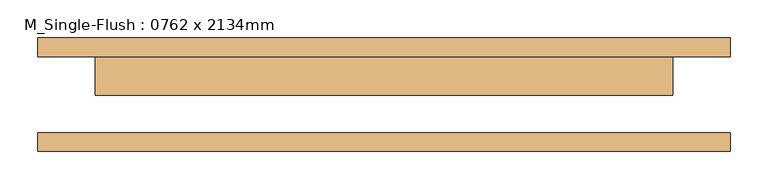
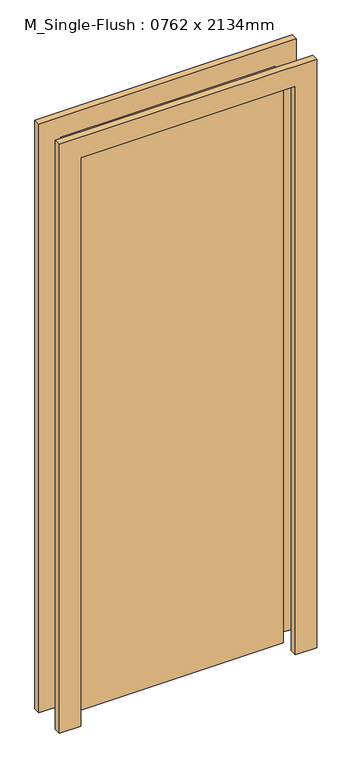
"""IFC4 building model written with IfcOpenShell, lengths in millimetres: door geometry, M_Single-Flush : 0762 x 2134mm."""

from ifc_helpers import new_model, si_unit, frame, origin, origin_with_axes, place, context, project, spatial, polyline, outline, extrude, source, transform, mapped, element, save


def m_single_flush_0762_x_2134mm_7790ef76(model_context):
    return source(origin(), model_context, "Body", "SweptSolid", [
        extrude(outline(polyline([(2210.0, -457.0), (0.0, -457.0), (0.0, -381.0), (2134.0, -381.0), (2134.0, 381.0), (0.0, 381.0), (0.0, 457.0), (2210.0, 457.0), (2210.0, -457.0)])), frame((0.0, 50.0, 0.0), z_axis=(0.0, 1.0, 0.0), x_axis=(0.0, 0.0, 1.0)), (0.0, 0.0, 1.0), 25.0),
        extrude(outline(polyline([(2210.0, 457.0), (2210.0, -457.0), (0.0, -457.0), (0.0, -381.0), (2134.0, -381.0), (2134.0, 381.0), (0.0, 381.0), (0.0, 457.0), (2210.0, 457.0)])), frame((0.0, -75.0, 0.0), z_axis=(0.0, 1.0, 0.0), x_axis=(0.0, 0.0, 1.0)), (0.0, 0.0, 1.0), 25.0),
        extrude(outline(polyline([(381.0, -1.0), (-381.0, -1.0), (-381.0, 50.0), (381.0, 50.0), (381.0, -1.0)])), origin_with_axes(), (0.0, 0.0, 1.0), 2134.0),
    ])


if __name__ == "__main__":
    model = new_model("IFC4")
    model_context = context("Model", 3, world=origin())
    ifc_project = project(units=[si_unit("LENGTHUNIT", "METRE", prefix="MILLI")], contexts=[model_context])
    site = spatial("IfcSite", under=ifc_project)
    building = spatial("IfcBuilding", under=site)
    placement = place(None, origin())
    m_single_flush_0762_x_2134mm_shape = m_single_flush_0762_x_2134mm_7790ef76(model_context)
    element("IfcDoor", 1, ObjectType="M_Single-Flush : 0762 x 2134mm", at=placement, inside=building, context=model_context, shape_type="MappedRepresentation", body=[
        mapped(m_single_flush_0762_x_2134mm_shape, transform((0.0, 0.0, 0.0), x_axis=(1.0, 0.0, 0.0), y_axis=(0.0, 1.0, 0.0), z_axis=(0.0, 0.0, 1.0))),
    ])
    save(model, "model.ifc")
